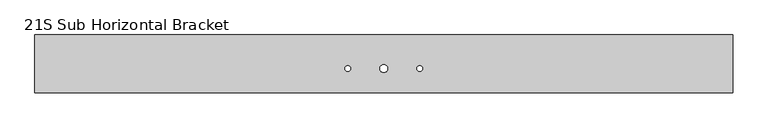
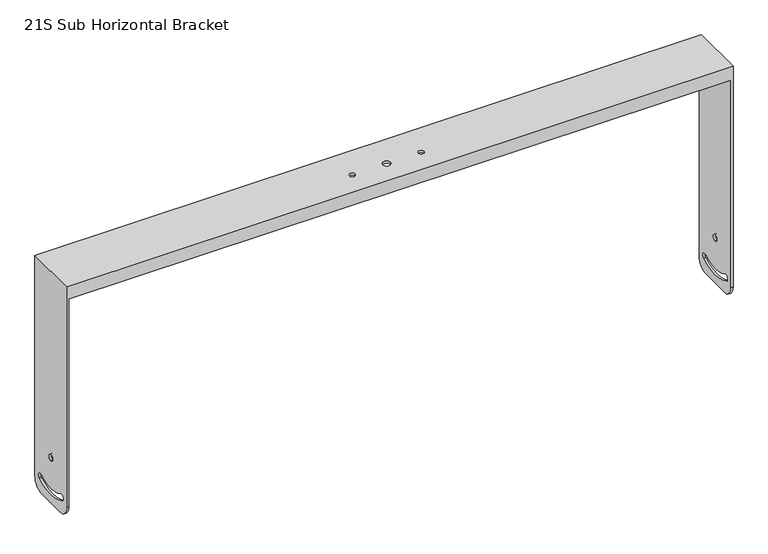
"""IFC4 building model written with IfcOpenShell, lengths in millimetres: proxy geometry, d&b xS-Series 21S Sub Horizontal Bracket : 21S Sub Horizontal Bracket."""

import ifcopenshell
import ifcopenshell.guid

model = None  # the IFC model being written
_history = None  # IfcOwnerHistory: only IFC2X3 demands one
_inside = {}  # id of a spatial element -> (the spatial element, [elements in it])
_under = {}  # id of a project, library or spatial element -> (it, [spatial elements below it])
_declared = {}  # id of a project -> (the project, [libraries it declares])
_typed = {}  # id of a type object -> (the type object, [elements of that type])
_made_of = {}  # id of a material, layer set ... -> (it, [elements and type objects made of it])


def new_model(schema):
    """Start an empty IFC model of exactly this schema.

    Asked for "IFC4X3", IfcOpenShell would pick the latest addendum, in which some entities
    have other attributes; the version numbers below select the first issue.
    IFC2X3 requires an IfcOwnerHistory on every rooted entity: one is made here for all.
    """
    global model, _history
    if schema == "IFC4X3":
        model = ifcopenshell.file(schema_version=(4, 3, 0, 0))
    else:
        model = ifcopenshell.file(schema=schema)
    _inside.clear()
    _under.clear()
    _declared.clear()
    _typed.clear()
    _made_of.clear()
    _history = None
    if model.schema == "IFC2X3":
        org = make("IfcOrganization", Name="unknown")
        user = make(
            "IfcPersonAndOrganization",
            ThePerson=make("IfcPerson", FamilyName="unknown"),
            TheOrganization=org,
        )
        app = make(
            "IfcApplication",
            ApplicationDeveloper=org,
            Version="unknown",
            ApplicationFullName="unknown",
            ApplicationIdentifier="unknown",
        )
        _history = make(
            "IfcOwnerHistory",
            OwningUser=user,
            OwningApplication=app,
            ChangeAction="ADDED",
            CreationDate=0,
        )
    return model


def make(cls, **values):
    """One entity of the class cls with the attributes given. An attribute that is None is left unset."""
    return model.create_entity(
        cls, **{name: value for name, value in values.items() if value is not None}
    )


def rooted(cls, **values):
    """An entity with a GlobalId (a new one), such as an element, a storey or a relation."""
    return make(cls, GlobalId=ifcopenshell.guid.new(), OwnerHistory=_history, **values)


def si_unit(unit_type, name, prefix=None):
    """IfcSIUnit, for example si_unit("LENGTHUNIT", "METRE", prefix="MILLI")."""
    return make("IfcSIUnit", UnitType=unit_type, Prefix=prefix, Name=name)


def assignment(units):
    """IfcUnitAssignment: the units of a project."""
    return None if units is None else make("IfcUnitAssignment", Units=units)


def point(xyz):
    """IfcCartesianPoint."""
    return None if xyz is None else make("IfcCartesianPoint", Coordinates=xyz)


def direction(xyz):
    """IfcDirection."""
    return None if xyz is None else make("IfcDirection", DirectionRatios=xyz)


def frame(location, z_axis=None, x_axis=None):
    """IfcAxis2Placement3D, a coordinate frame: its origin and axes. An axis left out is left unset."""
    return make(
        "IfcAxis2Placement3D",
        Location=point(location),
        Axis=direction(z_axis),
        RefDirection=direction(x_axis),
    )


def origin():
    """The frame at (0, 0, 0) with its axes left unset."""
    return frame((0.0, 0.0, 0.0))


def place(relative_to, where):
    """IfcLocalPlacement: puts the frame where relative to a parent placement (None: the world)."""
    return make(
        "IfcLocalPlacement", PlacementRelTo=relative_to, RelativePlacement=where
    )


def context(
    kind, dimensions, precision=None, world=None, true_north=None, identifier=None
):
    """IfcGeometricRepresentationContext, for example the 3D "Model" context."""
    return make(
        "IfcGeometricRepresentationContext",
        ContextIdentifier=identifier,
        ContextType=kind,
        CoordinateSpaceDimension=dimensions,
        Precision=precision,
        WorldCoordinateSystem=world,
        TrueNorth=true_north,
    )


def project(units=None, contexts=None):
    """IfcProject with its units and contexts."""
    return rooted(
        "IfcProject",
        Name="project",
        RepresentationContexts=contexts,
        UnitsInContext=assignment(units),
    )


def spatial(cls, under=None, at=None, **own):
    """A site, building, storey or space (cls), placed at a placement, below another one or the project."""
    s = rooted(cls, ObjectPlacement=at, **own)
    if under is not None:
        _under.setdefault(under.id(), (under, []))[1].append(s)
    return s


def polyline(points):
    """IfcPolyline through the points."""
    return make("IfcPolyline", Points=[point(p) for p in points])


def circle_curve(where, radius):
    """IfcCircle in the frame where."""
    return make("IfcCircle", Position=where, Radius=radius)


def shape(context_of_items, identifier, shape_type, items):
    """IfcShapeRepresentation: the items that make up one representation, for example the "Body"."""
    return make(
        "IfcShapeRepresentation",
        ContextOfItems=context_of_items,
        RepresentationIdentifier=identifier,
        RepresentationType=shape_type,
        Items=items,
    )


def source(mapping_origin, context_of_items, identifier, shape_type, items):
    """IfcRepresentationMap: a shape defined once, which mapped items show again and again."""
    return make(
        "IfcRepresentationMap",
        MappingOrigin=mapping_origin,
        MappedRepresentation=shape(context_of_items, identifier, shape_type, items),
    )


def transform(
    local_origin,
    x_axis=None,
    y_axis=None,
    z_axis=None,
    scale=None,
    scale2=None,
    scale3=None,
    uniform=True,
):
    """IfcCartesianTransformationOperator3D, or its non-uniform kind. x_axis, y_axis, z_axis: its Axis1, 2, 3."""
    if uniform:
        return make(
            "IfcCartesianTransformationOperator3D",
            Axis1=direction(x_axis),
            Axis2=direction(y_axis),
            LocalOrigin=point(local_origin),
            Scale=scale,
            Axis3=direction(z_axis),
        )
    return make(
        "IfcCartesianTransformationOperator3DnonUniform",
        Axis1=direction(x_axis),
        Axis2=direction(y_axis),
        LocalOrigin=point(local_origin),
        Scale=scale,
        Axis3=direction(z_axis),
        Scale2=scale2,
        Scale3=scale3,
    )


def mapped(mapping_source, mapping_target):
    """IfcMappedItem: shows the shape of a source again, moved by a transform."""
    return make(
        "IfcMappedItem", MappingSource=mapping_source, MappingTarget=mapping_target
    )


def made_of(thing, what):
    """Note that an element or type object is made of a material, layer set ...; save() writes the relation."""
    if what is not None:
        _made_of.setdefault(what.id(), (what, []))[1].append(thing)
    return thing


def element(
    cls,
    number,
    at=None,
    inside=None,
    cuts=None,
    type_object=None,
    material=None,
    context=None,
    identifier="Body",
    shape_type=None,
    held_by="IfcProductDefinitionShape",
    body=None,
    shapes=None,
    **own,
):
    """One element of the class cls, such as IfcWall. Its Tag is "e" and its number.

    at: its placement. inside: the storey or other place that contains it. cuts: it is an
    opening in that element (IfcRelVoidsElement). A single representation is given by context,
    identifier, shape_type and body (its items); several are given by shapes. held_by: the class
    of the entity that holds the representations. save() writes the other relations.
    """
    e = rooted(cls, Tag="e%d" % number, ObjectPlacement=at, **own)
    if body is not None:
        shapes = [shape(context, identifier, shape_type, body)]
    if shapes is not None:
        e.Representation = make(held_by, Representations=shapes)
    if inside is not None:
        _inside.setdefault(inside.id(), (inside, []))[1].append(e)
    if cuts is not None:
        rooted(
            "IfcRelVoidsElement", RelatingBuildingElement=cuts, RelatedOpeningElement=e
        )
    if type_object is not None:
        _typed.setdefault(type_object.id(), (type_object, []))[1].append(e)
    return made_of(e, material)


def aggregate(whole, parts):
    """IfcRelAggregates: a whole, such as a stair, and the parts it consists of."""
    return rooted("IfcRelAggregates", RelatingObject=whole, RelatedObjects=parts)


def save(model, path):
    """Write the relations noted so far, then the file.

    IfcRelAggregates (storeys below a building ...), IfcRelContainedInSpatialStructure (elements
    in a storey), IfcRelDefinesByType, IfcRelAssociatesMaterial and IfcRelDeclares: one each for
    every whole, place, type object, material and project.
    """
    for whole, parts in _under.values():
        aggregate(whole, parts)
    for where, things in _inside.values():
        rooted(
            "IfcRelContainedInSpatialStructure",
            RelatedElements=things,
            RelatingStructure=where,
        )
    for kind, things in _typed.values():
        rooted("IfcRelDefinesByType", RelatedObjects=things, RelatingType=kind)
    for what, things in _made_of.values():
        rooted("IfcRelAssociatesMaterial", RelatedObjects=things, RelatingMaterial=what)
    for by, libraries in _declared.values():
        rooted("IfcRelDeclares", RelatingContext=by, RelatedDefinitions=libraries)
    model.write(path)


def plane_surface(at):
    """IfcPlane: the flat surface through the origin of the frame at, square to its z axis."""
    return make("IfcPlane", Position=at)


def cylinder_surface(at, radius):
    """IfcCylindricalSurface: all points at the distance radius from the z axis of the frame at."""
    return make("IfcCylindricalSurface", Position=at, Radius=radius)


def revolved_surface(curve, axis_point, axis_direction):
    """IfcSurfaceOfRevolution: the curve turned about the line through axis_point along axis_direction."""
    return make(
        "IfcSurfaceOfRevolution",
        SweptCurve=make("IfcArbitraryOpenProfileDef", ProfileType="CURVE", Curve=curve),
        AxisPosition=make("IfcAxis1Placement", Location=point(axis_point), Axis=direction(axis_direction)),
    )


def advanced_brep(points, edges, surfaces, faces):
    """IfcAdvancedBrep: a solid bounded by faces that lie on surfaces and meet in shared edges.

    An edge is (start, end): straight between two places in points (the first is 0);
    or (start, end, curve); or (start, end, curve, False) where it runs against its curve.
    A face is (place in surfaces, loops), or (place, loops, False) where it looks against
    its surface's normal. A loop lists edges by number (the first is 1), with a minus sign
    where the edge is run from its end to its start. The first loop is the outer one.
    """
    corners = [point(p) for p in points]
    vertices = [make("IfcVertexPoint", VertexGeometry=c) for c in corners]
    made = []
    for start, end, *more in edges:
        made.append(
            make(
                "IfcEdgeCurve",
                EdgeStart=vertices[start],
                EdgeEnd=vertices[end],
                EdgeGeometry=more[0] if more else make("IfcPolyline", Points=[corners[start], corners[end]]),
                SameSense=more[1] if len(more) > 1 else True,
            )
        )
    hull = []
    for where, loops, *sense in faces:
        bounds = []
        for j, loop in enumerate(loops):
            ring = [make("IfcOrientedEdge", EdgeElement=made[abs(k) - 1], Orientation=k > 0) for k in loop]
            bounds.append(
                make(
                    "IfcFaceOuterBound" if j == 0 else "IfcFaceBound",
                    Bound=make("IfcEdgeLoop", EdgeList=ring),
                    Orientation=True,
                )
            )
        hull.append(make("IfcAdvancedFace", Bounds=bounds, FaceSurface=surfaces[where], SameSense=sense[0] if sense else True))
    return make("IfcAdvancedBrep", Outer=make("IfcClosedShell", CfsFaces=hull))


def proxy_21s_sub_horizontal_bracket_4cf1d9cc(model_context):
    return source(origin(), model_context, "Body", "AdvancedBrep", [
        advanced_brep(
        [(-553.5, -39.7024689, -71.9884098), (-553.5, -19.7024689, -51.9884098), (-553.5, -19.7024689, 315.0115902), (-553.5, -22.7024689, 315.0115902), (-553.5, -22.7024689, 334.5115902), (-553.5, -108.7024689, 334.5115902), (-553.5, -108.7024689, 315.0115902), (-553.5, -111.7024689, 315.0115902), (-553.5, -111.7024689, -51.9884098), (-553.5, -91.7024689, -71.9884098), (-553.5, -65.7024689, 2.8115902), (-553.5, -65.7024689, 13.2115902), (-553.5, -93.5140876, -39.1386016), (-553.5, -37.8908503, -39.1386016), (-553.5, -32.5720479, -48.0756224), (-553.5, -98.8328899, -48.0756224), (-557.0, -39.7024689, -71.9884098), (-557.0, -91.7024689, -71.9884098), (-557.0, -111.7024689, -51.9884098), (-557.0, -111.7024689, 338.0115902), (-557.0, -19.7024689, 338.0115902), (-557.0, -19.7024689, -51.9884098), (-557.0, -65.7024689, 2.8115902), (-557.0, -65.7024689, 13.2115902), (-557.0, -93.5140876, -39.1386016), (-557.0, -98.8328899, -48.0756224), (-557.0, -32.5720479, -48.0756224), (-557.0, -37.8908503, -39.1386016), (557.0, -19.7024689, 338.0115902), (557.0, -19.7024689, -51.9884098), (553.5, -19.7024689, -51.9884098), (553.5, -19.7024689, 315.0115902), (553.5, -111.7024689, 315.0115902), (553.5, -111.7024689, -51.9884098), (557.0, -111.7024689, -51.9884098), (557.0, -111.7024689, 338.0115902), (-6.25, -73.4475275, 338.0115902), (6.25, -73.4475275, 338.0115902), (-62.0, -73.4475275, 338.0115902), (-53.0, -73.4475275, 338.0115902), (53.0, -73.4475275, 338.0115902), (62.0, -73.4475275, 338.0115902), (553.5, -22.7024689, 334.5115902), (553.5, -108.7024689, 334.5115902), (-6.25, -73.4475275, 334.5115902), (6.25, -73.4475275, 334.5115902), (-62.0, -73.4475275, 334.5115902), (-53.0, -73.4475275, 334.5115902), (53.0, -73.4475275, 334.5115902), (62.0, -73.4475275, 334.5115902), (557.0, -91.7024689, -71.9884098), (557.0, -39.7024689, -71.9884098), (557.0, -65.7024689, 2.8115902), (557.0, -65.7024689, 13.2115902), (557.0, -93.5140876, -39.1386016), (557.0, -37.8908503, -39.1386016), (557.0, -32.5720479, -48.0756224), (557.0, -98.8328899, -48.0756224), (553.5, -22.7024689, 315.0115902), (553.5, -108.7024689, 315.0115902), (553.5, -39.7024689, -71.9884098), (553.5, -91.7024689, -71.9884098), (553.5, -65.7024689, 2.8115902), (553.5, -65.7024689, 13.2115902), (553.5, -93.5140876, -39.1386016), (553.5, -98.8328899, -48.0756224), (553.5, -32.5720479, -48.0756224), (553.5, -37.8908503, -39.1386016)],
        [
            (0, 1, circle_curve(frame((-553.5, -39.7024689, -51.9884098), z_axis=(1.0, 0.0, 0.0), x_axis=(0.0, 0.0, 1.0)), 20.0)),
            (1, 2),
            (2, 3),
            (3, 4),
            (4, 5),
            (5, 6),
            (6, 7),
            (7, 8),
            (8, 9, circle_curve(frame((-553.5, -91.7024689, -51.9884098), z_axis=(1.0, 0.0, 0.0), x_axis=(0.0, 0.0, 1.0)), 20.0)),
            (9, 0),
            (10, 11, circle_curve(frame((-553.5, -65.7024689, 8.0115902), z_axis=(-1.0, 0.0, 0.0), x_axis=(0.0, 0.0, 1.0)), 5.2)),
            (11, 10, circle_curve(frame((-553.5, -65.7024689, 8.0115902), z_axis=(-1.0, 0.0, 0.0), x_axis=(0.0, 0.0, 1.0)), 5.2)),
            (12, 13, circle_curve(frame((-553.5, -65.7024689, 7.5924106), z_axis=(1.0, 0.0, 0.0), x_axis=(0.0, 0.0, 1.0)), 54.3808204)),
            (13, 14, circle_curve(frame((-553.5, -35.2314491, -43.607112), z_axis=(-1.0, 0.0, 0.0), x_axis=(0.0, 0.0, 1.0)), 5.2)),
            (14, 15, circle_curve(frame((-553.5, -65.7024689, 7.5924106), z_axis=(-1.0, 0.0, 0.0), x_axis=(0.0, 0.0, 1.0)), 64.7808204)),
            (15, 12, circle_curve(frame((-553.5, -96.1734888, -43.607112), z_axis=(-1.0, 0.0, 0.0), x_axis=(0.0, 0.0, 1.0)), 5.2)),
            (16, 17),
            (17, 18, circle_curve(frame((-557.0, -91.7024689, -51.9884098), z_axis=(-1.0, 0.0, 0.0), x_axis=(0.0, 0.0, 1.0)), 20.0)),
            (18, 19),
            (19, 20),
            (20, 21),
            (21, 16, circle_curve(frame((-557.0, -39.7024689, -51.9884098), z_axis=(-1.0, 0.0, 0.0), x_axis=(0.0, 0.0, 1.0)), 20.0)),
            (22, 23, circle_curve(frame((-557.0, -65.7024689, 8.0115902), z_axis=(1.0, 0.0, 0.0), x_axis=(0.0, 0.0, 1.0)), 5.2)),
            (23, 22, circle_curve(frame((-557.0, -65.7024689, 8.0115902), z_axis=(1.0, 0.0, 0.0), x_axis=(0.0, 0.0, 1.0)), 5.2)),
            (24, 25, circle_curve(frame((-557.0, -96.1734888, -43.607112), z_axis=(1.0, 0.0, 0.0), x_axis=(0.0, 0.0, 1.0)), 5.2)),
            (25, 26, circle_curve(frame((-557.0, -65.7024689, 7.5924106), z_axis=(1.0, 0.0, 0.0), x_axis=(0.0, 0.0, 1.0)), 64.7808204)),
            (26, 27, circle_curve(frame((-557.0, -35.2314491, -43.607112), z_axis=(1.0, 0.0, 0.0), x_axis=(0.0, 0.0, 1.0)), 5.2)),
            (27, 24, circle_curve(frame((-557.0, -65.7024689, 7.5924106), z_axis=(-1.0, 0.0, 0.0), x_axis=(0.0, 0.0, 1.0)), 54.3808204)),
            (0, 16),
            (21, 1),
            (20, 28),
            (28, 29),
            (29, 30),
            (30, 31),
            (31, 2),
            (18, 8),
            (7, 32),
            (32, 33),
            (33, 34),
            (34, 35),
            (35, 19),
            (17, 9),
            (10, 22),
            (23, 11),
            (12, 24),
            (27, 13),
            (26, 14),
            (25, 15),
            (35, 28),
            (36, 37, circle_curve(frame((0.0, -73.4475275, 338.0115902), z_axis=(0.0, 0.0, -1.0), x_axis=(1.0, 0.0, 0.0)), 6.25)),
            (37, 36, circle_curve(frame((0.0, -73.4475275, 338.0115902), z_axis=(0.0, 0.0, -1.0), x_axis=(1.0, 0.0, 0.0)), 6.25)),
            (38, 39, circle_curve(frame((-57.5, -73.4475275, 338.0115902), z_axis=(0.0, 0.0, -1.0), x_axis=(1.0, 0.0, 0.0)), 4.5)),
            (39, 38, circle_curve(frame((-57.5, -73.4475275, 338.0115902), z_axis=(0.0, 0.0, -1.0), x_axis=(1.0, 0.0, 0.0)), 4.5)),
            (40, 41, circle_curve(frame((57.5, -73.4475275, 338.0115902), z_axis=(0.0, 0.0, -1.0), x_axis=(1.0, 0.0, 0.0)), 4.5)),
            (41, 40, circle_curve(frame((57.5, -73.4475275, 338.0115902), z_axis=(0.0, 0.0, -1.0), x_axis=(1.0, 0.0, 0.0)), 4.5)),
            (4, 42),
            (42, 43),
            (43, 5),
            (44, 45, circle_curve(frame((0.0, -73.4475275, 334.5115902), z_axis=(0.0, 0.0, 1.0), x_axis=(1.0, 0.0, 0.0)), 6.25)),
            (45, 44, circle_curve(frame((0.0, -73.4475275, 334.5115902), z_axis=(0.0, 0.0, 1.0), x_axis=(1.0, 0.0, 0.0)), 6.25)),
            (46, 47, circle_curve(frame((-57.5, -73.4475275, 334.5115902), z_axis=(0.0, 0.0, 1.0), x_axis=(1.0, 0.0, 0.0)), 4.5)),
            (47, 46, circle_curve(frame((-57.5, -73.4475275, 334.5115902), z_axis=(0.0, 0.0, 1.0), x_axis=(1.0, 0.0, 0.0)), 4.5)),
            (48, 49, circle_curve(frame((57.5, -73.4475275, 334.5115902), z_axis=(0.0, 0.0, 1.0), x_axis=(1.0, 0.0, 0.0)), 4.5)),
            (49, 48, circle_curve(frame((57.5, -73.4475275, 334.5115902), z_axis=(0.0, 0.0, 1.0), x_axis=(1.0, 0.0, 0.0)), 4.5)),
            (34, 50, circle_curve(frame((557.0, -91.7024689, -51.9884098), z_axis=(1.0, 0.0, 0.0), x_axis=(0.0, 0.0, 1.0)), 20.0)),
            (50, 51),
            (51, 29, circle_curve(frame((557.0, -39.7024689, -51.9884098), z_axis=(1.0, 0.0, 0.0), x_axis=(0.0, 0.0, 1.0)), 20.0)),
            (52, 53, circle_curve(frame((557.0, -65.7024689, 8.0115902), z_axis=(-1.0, 0.0, 0.0), x_axis=(0.0, 0.0, 1.0)), 5.2)),
            (53, 52, circle_curve(frame((557.0, -65.7024689, 8.0115902), z_axis=(-1.0, 0.0, 0.0), x_axis=(0.0, 0.0, 1.0)), 5.2)),
            (54, 55, circle_curve(frame((557.0, -65.7024689, 7.5924106), z_axis=(1.0, 0.0, 0.0), x_axis=(0.0, 0.0, 1.0)), 54.3808204)),
            (55, 56, circle_curve(frame((557.0, -35.2314491, -43.607112), z_axis=(-1.0, 0.0, 0.0), x_axis=(0.0, 0.0, 1.0)), 5.2)),
            (56, 57, circle_curve(frame((557.0, -65.7024689, 7.5924106), z_axis=(-1.0, 0.0, 0.0), x_axis=(0.0, 0.0, 1.0)), 64.7808204)),
            (57, 54, circle_curve(frame((557.0, -96.1734888, -43.607112), z_axis=(-1.0, 0.0, 0.0), x_axis=(0.0, 0.0, 1.0)), 5.2)),
            (36, 44),
            (45, 37),
            (38, 46),
            (47, 39),
            (40, 48),
            (49, 41),
            (3, 58),
            (58, 42),
            (31, 58),
            (6, 59),
            (59, 32),
            (43, 59),
            (60, 61),
            (61, 33, circle_curve(frame((553.5, -91.7024689, -51.9884098), z_axis=(-1.0, 0.0, 0.0), x_axis=(0.0, 0.0, 1.0)), 20.0)),
            (30, 60, circle_curve(frame((553.5, -39.7024689, -51.9884098), z_axis=(-1.0, 0.0, 0.0), x_axis=(0.0, 0.0, 1.0)), 20.0)),
            (62, 63, circle_curve(frame((553.5, -65.7024689, 8.0115902), z_axis=(1.0, 0.0, 0.0), x_axis=(0.0, 0.0, 1.0)), 5.2)),
            (63, 62, circle_curve(frame((553.5, -65.7024689, 8.0115902), z_axis=(1.0, 0.0, 0.0), x_axis=(0.0, 0.0, 1.0)), 5.2)),
            (64, 65, circle_curve(frame((553.5, -96.1734888, -43.607112), z_axis=(1.0, 0.0, 0.0), x_axis=(0.0, 0.0, 1.0)), 5.2)),
            (65, 66, circle_curve(frame((553.5, -65.7024689, 7.5924106), z_axis=(1.0, 0.0, 0.0), x_axis=(0.0, 0.0, 1.0)), 64.7808204)),
            (66, 67, circle_curve(frame((553.5, -35.2314491, -43.607112), z_axis=(1.0, 0.0, 0.0), x_axis=(0.0, 0.0, 1.0)), 5.2)),
            (67, 64, circle_curve(frame((553.5, -65.7024689, 7.5924106), z_axis=(-1.0, 0.0, 0.0), x_axis=(0.0, 0.0, 1.0)), 54.3808204)),
            (51, 60),
            (61, 50),
            (52, 62),
            (63, 53),
            (54, 64),
            (67, 55),
            (66, 56),
            (65, 57),
        ],
        [
            plane_surface(frame((-553.5, -39.7024689, -31.9884098), z_axis=(1.0, 0.0, 0.0), x_axis=(0.0, -1.0, 0.0))),
            plane_surface(frame((-557.0, -39.7024689, -31.9884098), z_axis=(-1.0, 0.0, 0.0), x_axis=(0.0, 1.0, 0.0))),
            cylinder_surface(frame((-557.0, -39.7024689, -51.9884098), z_axis=(1.0, 0.0, 0.0), x_axis=(0.0, 0.0, 1.0)), 20.0),
            plane_surface(frame((-553.5, -19.7024689, -51.9884098), z_axis=(0.0, 1.0, 0.0), x_axis=(-1.0, 0.0, 0.0))),
            plane_surface(frame((-553.5, -111.7024689, 334.5115902), z_axis=(0.0, -1.0, 0.0), x_axis=(-1.0, 0.0, 0.0))),
            cylinder_surface(frame((-557.0, -91.7024689, -51.9884098), z_axis=(1.0, 0.0, 0.0), x_axis=(0.0, 0.0, 1.0)), 20.0),
            plane_surface(frame((-553.5, -91.7024689, -71.9884098), z_axis=(0.0, 0.0, -1.0), x_axis=(-1.0, 0.0, 0.0))),
            revolved_surface(polyline([(-557.0, -65.7024689, 13.2115902), (-553.5, -65.7024689, 13.2115902)]), (0.0, -65.7024689, 8.0115902), (-1.0, 0.0, 0.0)),
            cylinder_surface(frame((0.0, -65.7024689, 7.5924106), z_axis=(1.0, 0.0, 0.0), x_axis=(0.0, 0.0, 1.0)), 54.3808204),
            revolved_surface(polyline([(-557.0, -35.2314491, -38.407112), (-553.5, -35.2314491, -38.407112)]), (0.0, -35.2314491, -43.607112), (-1.0, 0.0, 0.0)),
            revolved_surface(polyline([(-557.0, -65.7024689, 72.37323099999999), (-553.5, -65.7024689, 72.37323099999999)]), (0.0, -65.7024689, 7.5924106), (-1.0, 0.0, 0.0)),
            revolved_surface(polyline([(-557.0, -96.1734888, -38.407112), (-553.5, -96.1734888, -38.407112)]), (0.0, -96.1734888, -43.607112), (-1.0, 0.0, 0.0)),
            plane_surface(frame((-557.0, -19.7024689, 338.0115902), z_axis=(0.0, 0.0, 1.0), x_axis=(-1.0, 0.0, 0.0))),
            plane_surface(frame((-557.0, -19.7024689, 334.5115902), z_axis=(0.0, 0.0, -1.0), x_axis=(1.0, 0.0, 0.0))),
            plane_surface(frame((557.0, -111.7024689, 338.0115902), z_axis=(1.0, 0.0, 0.0), x_axis=(0.0, 0.0, -1.0))),
            revolved_surface(polyline([(6.25, -73.4475275, 334.5115902), (6.25, -73.4475275, 338.0115902)]), (0.0, -73.4475275, 63.0115902), (0.0, 0.0, -1.0)),
            revolved_surface(polyline([(-53.0, -73.4475275, 334.5115902), (-53.0, -73.4475275, 338.0115902)]), (-57.5, -73.4475275, 63.0115902), (0.0, 0.0, -1.0)),
            revolved_surface(polyline([(62.0, -73.4475275, 334.5115902), (62.0, -73.4475275, 338.0115902)]), (57.5, -73.4475275, 63.0115902), (0.0, 0.0, -1.0)),
            plane_surface(frame((553.5, -22.7024689, 334.5115902), z_axis=(0.0, -1.0, 0.0), x_axis=(-1.0, 0.0, 0.0))),
            plane_surface(frame((553.5, -22.7024689, 315.0115902), z_axis=(0.0, 0.0, -1.0), x_axis=(-1.0, 0.0, 0.0))),
            plane_surface(frame((553.5, -111.7024689, 315.0115902), z_axis=(0.0, 0.0, -1.0), x_axis=(-1.0, 0.0, 0.0))),
            plane_surface(frame((553.5, -108.7024689, 315.0115902), z_axis=(0.0, 1.0, 0.0), x_axis=(-1.0, 0.0, 0.0))),
            plane_surface(frame((553.5, -39.7024689, -31.9884098), z_axis=(-1.0, 0.0, 0.0), x_axis=(0.0, 1.0, 0.0))),
            cylinder_surface(frame((553.5, -39.7024689, -51.9884098), z_axis=(1.0, 0.0, 0.0), x_axis=(0.0, 0.0, 1.0)), 20.0),
            cylinder_surface(frame((553.5, -91.7024689, -51.9884098), z_axis=(1.0, 0.0, 0.0), x_axis=(0.0, 0.0, 1.0)), 20.0),
            plane_surface(frame((557.0, -91.7024689, -71.9884098), z_axis=(0.0, 0.0, -1.0), x_axis=(-1.0, 0.0, 0.0))),
            revolved_surface(polyline([(553.5, -65.7024689, 13.2115902), (557.0, -65.7024689, 13.2115902)]), (0.0, -65.7024689, 8.0115902), (-1.0, 0.0, 0.0)),
            revolved_surface(polyline([(553.5, -35.2314491, -38.407112), (557.0, -35.2314491, -38.407112)]), (0.0, -35.2314491, -43.607112), (-1.0, 0.0, 0.0)),
            revolved_surface(polyline([(553.5, -65.7024689, 72.37323099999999), (557.0, -65.7024689, 72.37323099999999)]), (0.0, -65.7024689, 7.5924106), (-1.0, 0.0, 0.0)),
            revolved_surface(polyline([(553.5, -96.1734888, -38.407112), (557.0, -96.1734888, -38.407112)]), (0.0, -96.1734888, -43.607112), (-1.0, 0.0, 0.0)),
        ],
        [
            (0, [[1, 2, 3, 4, 5, 6, 7, 8, 9, 10], [11, 12], [13, 14, 15, 16]]),
            (1, [[17, 18, 19, 20, 21, 22], [23, 24], [25, 26, 27, 28]]),
            (2, [[-1, 29, -22, 30]]),
            (3, [[-30, -21, 31, 32, 33, 34, 35, -2]]),
            (4, [[36, -8, 37, 38, 39, 40, 41, -19]]),
            (5, [[-9, -36, -18, 42]]),
            (6, [[-10, -42, -17, -29]]),
            (7, [[-11, 43, -24, 44]]),
            (7, [[-12, -44, -23, -43]]),
            (8, [[-13, 45, -28, 46]]),
            (9, [[-14, -46, -27, 47]]),
            (10, [[-15, -47, -26, 48]]),
            (11, [[-16, -48, -25, -45]]),
            (12, [[-31, -20, -41, 49], [50, 51], [52, 53], [54, 55]]),
            (13, [[-5, 56, 57, 58], [59, 60], [61, 62], [63, 64]]),
            (14, [[-32, -49, -40, 65, 66, 67], [68, 69], [70, 71, 72, 73]]),
            (15, [[-50, 74, -60, 75]]),
            (15, [[-51, -75, -59, -74]]),
            (16, [[-52, 76, -62, 77]]),
            (16, [[-53, -77, -61, -76]]),
            (17, [[-54, 78, -64, 79]]),
            (17, [[-55, -79, -63, -78]]),
            (18, [[80, 81, -56, -4]]),
            (19, [[-80, -3, -35, 82]]),
            (20, [[-37, -7, 83, 84]]),
            (21, [[-83, -6, -58, 85]]),
            (22, [[86, 87, -38, -84, -85, -57, -81, -82, -34, 88], [89, 90], [91, 92, 93, 94]]),
            (23, [[-67, 95, -88, -33]]),
            (24, [[-65, -39, -87, 96]]),
            (25, [[-66, -96, -86, -95]]),
            (26, [[-68, 97, -90, 98]]),
            (26, [[-69, -98, -89, -97]]),
            (8, [[-70, 99, -94, 100]]),
            (27, [[-71, -100, -93, 101]]),
            (28, [[-72, -101, -92, 102]]),
            (29, [[-73, -102, -91, -99]]),
        ],
    ),
    ])


if __name__ == "__main__":
    model = new_model("IFC4")
    model_context = context("Model", 3, world=origin())
    ifc_project = project(units=[si_unit("LENGTHUNIT", "METRE", prefix="MILLI")], contexts=[model_context])
    site = spatial("IfcSite", under=ifc_project)
    building = spatial("IfcBuilding", under=site)
    placement = place(None, origin())
    proxy_21s_sub_horizontal_bracket_shape = proxy_21s_sub_horizontal_bracket_4cf1d9cc(model_context)
    element("IfcBuildingElementProxy", 1, Name="d&b xS-Series 21S Sub Horizontal Bracket : 21S Sub Horizontal Bracket", ObjectType="d&b xS-Series 21S Sub Horizontal Bracket : 21S Sub Horizontal Bracket", at=placement, inside=building, context=model_context, shape_type="MappedRepresentation", body=[
        mapped(proxy_21s_sub_horizontal_bracket_shape, transform((0.0, 0.0, 0.0), x_axis=(1.0, 0.0, 0.0), y_axis=(0.0, 1.0, 0.0), z_axis=(0.0, 0.0, 1.0))),
    ])
    save(model, "model.ifc")
